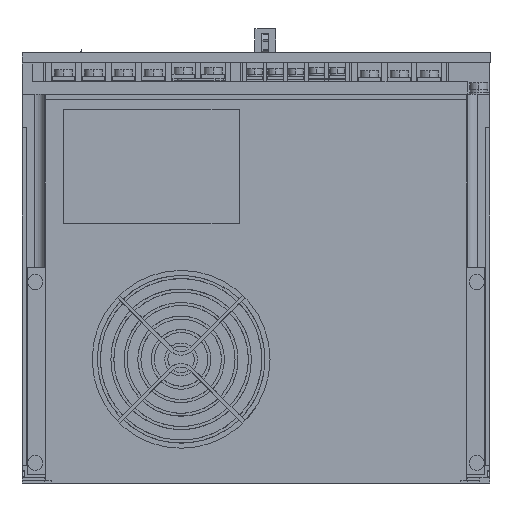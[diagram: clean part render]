
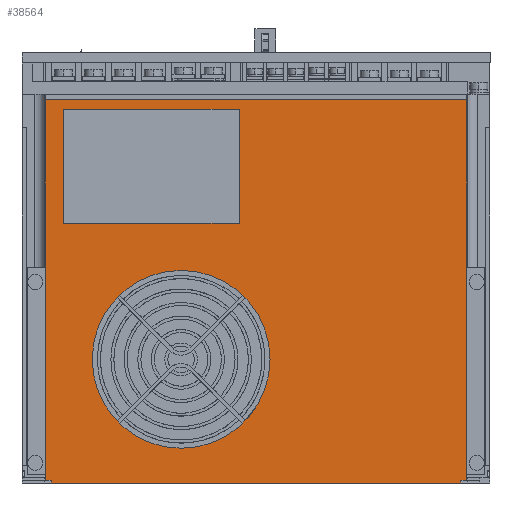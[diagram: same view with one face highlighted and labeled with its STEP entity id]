
A CAD part, left-side view. The second image highlights one B-rep face of the part: STEP entity #38564.
In plain terms, the highlighted planar face has unit normal (-1, 0, 0).
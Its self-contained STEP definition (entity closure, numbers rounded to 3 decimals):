
#9959 = CARTESIAN_POINT ( 'NONE',  ( -5., -228.4, 1.6 ) ) ;
#9960 = DIRECTION ( 'NONE',  ( 0., 0., 1. ) ) ;
#9961 = VECTOR ( 'NONE', #9960, 1000. ) ;
#9962 = CARTESIAN_POINT ( 'NONE',  ( -5., -228.4, -284.121 ) ) ;
#9963 = LINE ( 'NONE', #9962, #9961 ) ;
#9995 = CARTESIAN_POINT ( 'NONE',  ( -5., -6.5, 1.6 ) ) ;
#9996 = CARTESIAN_POINT ( 'NONE',  ( -5., -6.5, 204.9 ) ) ;
#9997 = CARTESIAN_POINT ( 'NONE',  ( -5., -231.5, 204.9 ) ) ;
#9998 = DIRECTION ( 'NONE',  ( 0., 1., 0. ) ) ;
#9999 = VECTOR ( 'NONE', #9998, 1000. ) ;
#10000 = CARTESIAN_POINT ( 'NONE',  ( -5., 6., 204.9 ) ) ;
#10001 = LINE ( 'NONE', #10000, #9999 ) ;
#10002 = DIRECTION ( 'NONE',  ( 0., 1., 0. ) ) ;
#10003 = DIRECTION ( 'NONE',  ( 1., 0., 0. ) ) ;
#10004 = CARTESIAN_POINT ( 'NONE',  ( -5., 6., 465.767 ) ) ;
#10005 = AXIS2_PLACEMENT_3D ( 'NONE', #10004, #10003, #10002 ) ;
#10006 = PLANE ( 'NONE',  #10005 ) ;
#10007 = FACE_BOUND ( 'NONE', #38623, .T. ) ;
#10008 = FACE_BOUND ( 'NONE', #38619, .T. ) ;
#10009 = FACE_OUTER_BOUND ( 'NONE', #38565, .T. ) ;
#10015 = DIRECTION ( 'NONE',  ( 0., 0., -1. ) ) ;
#10016 = VECTOR ( 'NONE', #10015, 1000. ) ;
#10017 = CARTESIAN_POINT ( 'NONE',  ( -5., -16., 138.9 ) ) ;
#10018 = LINE ( 'NONE', #10017, #10016 ) ;
#10049 = DIRECTION ( 'NONE',  ( 0., 0., 1. ) ) ;
#10050 = VECTOR ( 'NONE', #10049, 1000. ) ;
#10051 = CARTESIAN_POINT ( 'NONE',  ( -5., -231.5, -15.051 ) ) ;
#10052 = LINE ( 'NONE', #10051, #10050 ) ;
#10054 = CARTESIAN_POINT ( 'NONE',  ( -5., -231.5, 1.6 ) ) ;
#10055 = DIRECTION ( 'NONE',  ( 0., -1., 0. ) ) ;
#10056 = VECTOR ( 'NONE', #10055, 1000. ) ;
#10057 = CARTESIAN_POINT ( 'NONE',  ( -5., 6., 1.6 ) ) ;
#10058 = LINE ( 'NONE', #10057, #10056 ) ;
#10071 = DIRECTION ( 'NONE',  ( 0., 0., 1. ) ) ;
#10072 = VECTOR ( 'NONE', #10071, 1000. ) ;
#10073 = CARTESIAN_POINT ( 'NONE',  ( -5., -110., 138.9 ) ) ;
#10074 = LINE ( 'NONE', #10073, #10072 ) ;
#10075 = CARTESIAN_POINT ( 'NONE',  ( -5., -110., 199.9 ) ) ;
#10076 = DIRECTION ( 'NONE',  ( 0., 1., 0. ) ) ;
#10077 = VECTOR ( 'NONE', #10076, 1000. ) ;
#10078 = CARTESIAN_POINT ( 'NONE',  ( -5., -16., 199.9 ) ) ;
#10079 = LINE ( 'NONE', #10078, #10077 ) ;
#10080 = CARTESIAN_POINT ( 'NONE',  ( -5., -16., 199.9 ) ) ;
#10082 = CARTESIAN_POINT ( 'NONE',  ( -5., -228.4, 0. ) ) ;
#10083 = DIRECTION ( 'NONE',  ( 0., -1., 0. ) ) ;
#10084 = VECTOR ( 'NONE', #10083, 1000. ) ;
#10085 = CARTESIAN_POINT ( 'NONE',  ( -5., -228.4, 0. ) ) ;
#10086 = LINE ( 'NONE', #10085, #10084 ) ;
#10087 = CARTESIAN_POINT ( 'NONE',  ( -5., -9.6, 0. ) ) ;
#10088 = DIRECTION ( 'NONE',  ( 0., 0., 1. ) ) ;
#10089 = VECTOR ( 'NONE', #10088, 1000. ) ;
#10090 = CARTESIAN_POINT ( 'NONE',  ( -5., -9.6, -284.121 ) ) ;
#10091 = LINE ( 'NONE', #10090, #10089 ) ;
#10092 = CARTESIAN_POINT ( 'NONE',  ( -5., -9.6, 1.6 ) ) ;
#10093 = DIRECTION ( 'NONE',  ( 0., -1., 0. ) ) ;
#10095 = VECTOR ( 'NONE', #10093, 1000. ) ;
#10096 = CARTESIAN_POINT ( 'NONE',  ( -5., 6., 1.6 ) ) ;
#10097 = LINE ( 'NONE', #10096, #10095 ) ;
#10098 = DIRECTION ( 'NONE',  ( 0., 0., 1. ) ) ;
#10099 = VECTOR ( 'NONE', #10098, 1000. ) ;
#10100 = CARTESIAN_POINT ( 'NONE',  ( -5., -6.5, -15.051 ) ) ;
#10101 = LINE ( 'NONE', #10100, #10099 ) ;
#10102 = CARTESIAN_POINT ( 'NONE',  ( -5., -110., 138.9 ) ) ;
#10103 = CARTESIAN_POINT ( 'NONE',  ( -5., -16., 138.9 ) ) ;
#10104 = DIRECTION ( 'NONE',  ( 0., -1., 0. ) ) ;
#10105 = VECTOR ( 'NONE', #10104, 1000. ) ;
#10106 = CARTESIAN_POINT ( 'NONE',  ( -5., -16., 138.9 ) ) ;
#10107 = LINE ( 'NONE', #10106, #10105 ) ;
#10108 = DIRECTION ( 'NONE',  ( 0., -1., 0. ) ) ;
#10109 = DIRECTION ( 'NONE',  ( -1., 0., 0. ) ) ;
#10110 = CARTESIAN_POINT ( 'NONE',  ( -5., -79., 66.3 ) ) ;
#10111 = AXIS2_PLACEMENT_3D ( 'NONE', #10110, #10109, #10108 ) ;
#10112 = CIRCLE ( 'NONE', #10111, 47.5 ) ;
#24777 = CARTESIAN_POINT ( 'NONE',  ( -5., -126.5, 66.3 ) ) ;
#25031 = DIRECTION ( 'NONE',  ( 0., -1., 0. ) ) ;
#25032 = DIRECTION ( 'NONE',  ( -1., 0., 0. ) ) ;
#25033 = CARTESIAN_POINT ( 'NONE',  ( -5., -79., 66.3 ) ) ;
#25034 = AXIS2_PLACEMENT_3D ( 'NONE', #25033, #25032, #25031 ) ;
#25035 = CIRCLE ( 'NONE', #25034, 47.5 ) ;
#25582 = CARTESIAN_POINT ( 'NONE',  ( -5., -31.5, 66.3 ) ) ;
#38553 = ORIENTED_EDGE ( 'NONE', *, *, #38554, .T. ) ;
#38554 = EDGE_CURVE ( 'NONE', #38638, #38555, #9963, .T. ) ;
#38555 = VERTEX_POINT ( 'NONE', #9959 ) ;
#38564 = ADVANCED_FACE ( 'NONE', ( #10009, #10008, #10007 ), #10006, .F. ) ;
#38565 = EDGE_LOOP ( 'NONE', ( #38566, #38628, #38630, #38633, #38636, #38553, #38614, #38617 ) ) ;
#38566 = ORIENTED_EDGE ( 'NONE', *, *, #38567, .T. ) ;
#38567 = EDGE_CURVE ( 'NONE', #38568, #38569, #10001, .T. ) ;
#38568 = VERTEX_POINT ( 'NONE', #9997 ) ;
#38569 = VERTEX_POINT ( 'NONE', #9996 ) ;
#38570 = VERTEX_POINT ( 'NONE', #9995 ) ;
#38600 = EDGE_CURVE ( 'NONE', #38601, #38626, #10018, .T. ) ;
#38601 = VERTEX_POINT ( 'NONE', #10080 ) ;
#38602 = ORIENTED_EDGE ( 'NONE', *, *, #38603, .F. ) ;
#38603 = EDGE_CURVE ( 'NONE', #38604, #38601, #10079, .T. ) ;
#38604 = VERTEX_POINT ( 'NONE', #10075 ) ;
#38605 = ORIENTED_EDGE ( 'NONE', *, *, #38606, .F. ) ;
#38606 = EDGE_CURVE ( 'NONE', #38627, #38604, #10074, .T. ) ;
#38614 = ORIENTED_EDGE ( 'NONE', *, *, #38615, .T. ) ;
#38615 = EDGE_CURVE ( 'NONE', #38555, #38616, #10058, .T. ) ;
#38616 = VERTEX_POINT ( 'NONE', #10054 ) ;
#38617 = ORIENTED_EDGE ( 'NONE', *, *, #38618, .T. ) ;
#38618 = EDGE_CURVE ( 'NONE', #38616, #38568, #10052, .T. ) ;
#38619 = EDGE_LOOP ( 'NONE', ( #38620, #38622 ) ) ;
#38620 = ORIENTED_EDGE ( 'NONE', *, *, #38621, .F. ) ;
#38621 = EDGE_CURVE ( 'NONE', #48187, #48715, #10112, .T. ) ;
#38622 = ORIENTED_EDGE ( 'NONE', *, *, #48352, .F. ) ;
#38623 = EDGE_LOOP ( 'NONE', ( #38624, #41334, #38602, #38605 ) ) ;
#38624 = ORIENTED_EDGE ( 'NONE', *, *, #38625, .F. ) ;
#38625 = EDGE_CURVE ( 'NONE', #38626, #38627, #10107, .T. ) ;
#38626 = VERTEX_POINT ( 'NONE', #10103 ) ;
#38627 = VERTEX_POINT ( 'NONE', #10102 ) ;
#38628 = ORIENTED_EDGE ( 'NONE', *, *, #38629, .F. ) ;
#38629 = EDGE_CURVE ( 'NONE', #38570, #38569, #10101, .T. ) ;
#38630 = ORIENTED_EDGE ( 'NONE', *, *, #38631, .T. ) ;
#38631 = EDGE_CURVE ( 'NONE', #38570, #38632, #10097, .T. ) ;
#38632 = VERTEX_POINT ( 'NONE', #10092 ) ;
#38633 = ORIENTED_EDGE ( 'NONE', *, *, #38634, .F. ) ;
#38634 = EDGE_CURVE ( 'NONE', #38635, #38632, #10091, .T. ) ;
#38635 = VERTEX_POINT ( 'NONE', #10087 ) ;
#38636 = ORIENTED_EDGE ( 'NONE', *, *, #38637, .T. ) ;
#38637 = EDGE_CURVE ( 'NONE', #38635, #38638, #10086, .T. ) ;
#38638 = VERTEX_POINT ( 'NONE', #10082 ) ;
#41334 = ORIENTED_EDGE ( 'NONE', *, *, #38600, .F. ) ;
#48187 = VERTEX_POINT ( 'NONE', #24777 ) ;
#48352 = EDGE_CURVE ( 'NONE', #48715, #48187, #25035, .T. ) ;
#48715 = VERTEX_POINT ( 'NONE', #25582 ) ;
